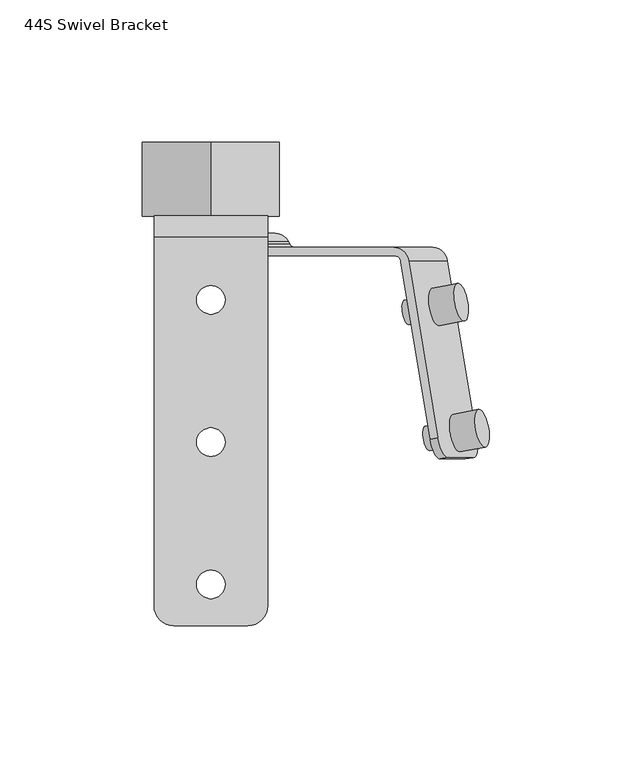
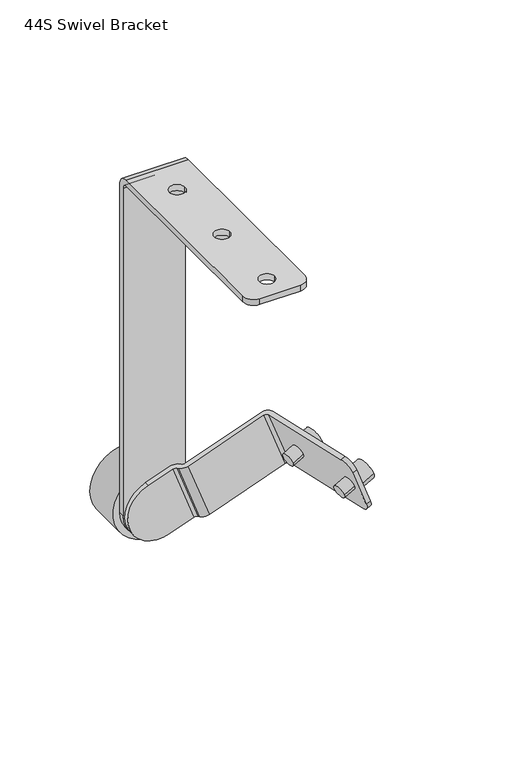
"""IFC4 building model written with IfcOpenShell, lengths in millimetres: proxy geometry, d&b xS-Series 44S Swivel Bracket : 44S Swivel Bracket."""

from ifc_helpers import new_model, si_unit, point, frame, frame_2d, origin, origin_2d, place, context, project, spatial, polyline, circle_curve, trimmed, segment, composite_curve, outline, extrude, source, transform, mapped, element, save
from ifc_brep_helpers import plane_surface, cylinder_surface, revolved_surface, advanced_brep


def proxy_44s_swivel_bracket_d8dc4f12(model_context):
    return source(origin(), model_context, "Body", "SolidModel", [
        extrude(outline(composite_curve([segment(trimmed(circle_curve(frame_2d((0.0, 6.707269)), 6.7072689), [point((0.0, 13.4145379))], [point((0.0, 0.0))], False, "CARTESIAN"), True, "CONTINUOUS"), segment(trimmed(circle_curve(frame_2d((0.0, 6.707269)), 6.7072689), [point((0.0, 0.0))], [point((0.0, 13.4145379))], False, "CARTESIAN"), True, "CONTINUOUS")], self_intersect=False)), frame((80.1887594, 40.9628223, 28.9903002), z_axis=(0.9254165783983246, 0.17364817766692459, 0.33682408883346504), x_axis=(0.3420201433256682, 0.0, -0.9396926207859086)), (0.0, 0.0, 1.0), 9.6),
        advanced_brep(
        [(13.0021913, -64.5046425, 230.0), (20.0021913, -57.5046425, 230.0), (20.0021913, 72.0953575, 230.0), (-19.9978087, 72.0953575, 230.0), (-19.9978087, -57.53477, 230.0), (-13.0279363, -64.5046425, 230.0), (-5.0, 0.0, 230.0), (5.0, 0.0, 230.0), (-5.0, -50.0, 230.0), (5.0, -50.0, 230.0), (-5.0, 50.0, 230.0), (5.0, 50.0, 230.0), (13.0021913, -64.5046425, 226.0), (-13.0279363, -64.5046425, 226.0), (-19.9978087, -57.53477, 226.0), (-19.9978087, 72.0953575, 226.0), (20.0021913, 72.0953575, 226.0), (20.0021913, -57.5046425, 226.0), (-5.0, 0.0, 226.0), (5.0, 0.0, 226.0), (-5.0, -50.0, 226.0), (5.0, -50.0, 226.0), (-5.0, 50.0, 226.0), (5.0, 50.0, 226.0), (-19.9978087, 79.4953575, 222.6), (-19.9978087, 79.4953575, 0.0), (-19.9978087, 75.4953575, 0.0), (-19.9978087, 75.4953575, 222.6), (20.0021913, 75.4953575, 222.6), (20.0021913, 75.4953575, 0.0), (20.0021913, 79.4953575, 0.0), (20.0021913, 79.4953575, 222.6)],
        [
            (0, 1, circle_curve(frame((13.0021913, -57.5046425, 230.0), z_axis=(0.0, 0.0, 1.0), x_axis=(1.0, 0.0, 0.0)), 7.0)),
            (1, 2),
            (2, 3),
            (3, 4),
            (4, 5, circle_curve(frame((-13.0279363, -57.53477, 230.0), z_axis=(0.0, 0.0, 1.0), x_axis=(1.0, 0.0, 0.0)), 6.9698724)),
            (5, 0),
            (6, 7, circle_curve(frame((0.0, 0.0, 230.0), z_axis=(0.0, 0.0, -1.0), x_axis=(1.0, 0.0, 0.0)), 5.0)),
            (7, 6, circle_curve(frame((0.0, 0.0, 230.0), z_axis=(0.0, 0.0, -1.0), x_axis=(1.0, 0.0, 0.0)), 5.0)),
            (8, 9, circle_curve(frame((0.0, -50.0, 230.0), z_axis=(0.0, 0.0, -1.0), x_axis=(1.0, 0.0, 0.0)), 5.0)),
            (9, 8, circle_curve(frame((0.0, -50.0, 230.0), z_axis=(0.0, 0.0, -1.0), x_axis=(1.0, 0.0, 0.0)), 5.0)),
            (10, 11, circle_curve(frame((0.0, 50.0, 230.0), z_axis=(0.0, 0.0, -1.0), x_axis=(1.0, 0.0, 0.0)), 5.0)),
            (11, 10, circle_curve(frame((0.0, 50.0, 230.0), z_axis=(0.0, 0.0, -1.0), x_axis=(1.0, 0.0, 0.0)), 5.0)),
            (12, 13),
            (13, 14, circle_curve(frame((-13.0279363, -57.53477, 226.0), z_axis=(0.0, 0.0, -1.0), x_axis=(1.0, 0.0, 0.0)), 6.9698724)),
            (14, 15),
            (15, 16),
            (16, 17),
            (17, 12, circle_curve(frame((13.0021913, -57.5046425, 226.0), z_axis=(0.0, 0.0, -1.0), x_axis=(1.0, 0.0, 0.0)), 7.0)),
            (18, 19, circle_curve(frame((0.0, 0.0, 226.0), z_axis=(0.0, 0.0, 1.0), x_axis=(1.0, 0.0, 0.0)), 5.0)),
            (19, 18, circle_curve(frame((0.0, 0.0, 226.0), z_axis=(0.0, 0.0, 1.0), x_axis=(1.0, 0.0, 0.0)), 5.0)),
            (20, 21, circle_curve(frame((0.0, -50.0, 226.0), z_axis=(0.0, 0.0, 1.0), x_axis=(1.0, 0.0, 0.0)), 5.0)),
            (21, 20, circle_curve(frame((0.0, -50.0, 226.0), z_axis=(0.0, 0.0, 1.0), x_axis=(1.0, 0.0, 0.0)), 5.0)),
            (22, 23, circle_curve(frame((0.0, 50.0, 226.0), z_axis=(0.0, 0.0, 1.0), x_axis=(1.0, 0.0, 0.0)), 5.0)),
            (23, 22, circle_curve(frame((0.0, 50.0, 226.0), z_axis=(0.0, 0.0, 1.0), x_axis=(1.0, 0.0, 0.0)), 5.0)),
            (5, 13),
            (12, 0),
            (4, 14),
            (3, 24, circle_curve(frame((-19.9978087, 72.0953575, 222.6), z_axis=(-1.0, 0.0, 0.0), x_axis=(0.0, -1.0, 0.0)), 7.4)),
            (24, 25),
            (25, 26),
            (26, 27),
            (27, 15, circle_curve(frame((-19.9978087, 72.0953575, 222.6), z_axis=(1.0, 0.0, 0.0), x_axis=(0.0, -1.0, 0.0)), 3.4)),
            (1, 17),
            (16, 28, circle_curve(frame((20.0021913, 72.0953575, 222.6), z_axis=(-1.0, 0.0, 0.0), x_axis=(0.0, -1.0, 0.0)), 3.4)),
            (28, 29),
            (29, 30),
            (30, 31),
            (31, 2, circle_curve(frame((20.0021913, 72.0953575, 222.6), z_axis=(1.0, 0.0, 0.0), x_axis=(0.0, -1.0, 0.0)), 7.4)),
            (7, 19),
            (18, 6),
            (9, 21),
            (20, 8),
            (11, 23),
            (22, 10),
            (30, 25, circle_curve(frame((0.0021913, 79.4953575, 0.0), z_axis=(0.0, 1.0, 0.0), x_axis=(1.0, 0.0, 0.0)), 20.0)),
            (24, 31),
            (27, 28),
            (26, 29, circle_curve(frame((0.0021913, 75.4953575, 0.0), z_axis=(0.0, -1.0, 0.0), x_axis=(1.0, 0.0, 0.0)), 20.0)),
        ],
        [
            plane_surface(frame((-19.9978087, -64.5046425, 230.0), z_axis=(0.0, 0.0, 1.0), x_axis=(-1.0, 0.0, 0.0))),
            plane_surface(frame((-19.9978087, -64.5046425, 226.0), z_axis=(0.0, 0.0, -1.0), x_axis=(1.0, 0.0, 0.0))),
            plane_surface(frame((13.0021913, -64.5046425, 230.0), z_axis=(0.0, -1.0, 0.0), x_axis=(0.0, 0.0, -1.0))),
            cylinder_surface(frame((-13.0279363, -57.53477, 226.0), z_axis=(0.0, 0.0, 1.0), x_axis=(1.0, 0.0, 0.0)), 6.9698724),
            plane_surface(frame((-19.9978087, -57.53477, 230.0), z_axis=(-1.0, 0.0, 0.0), x_axis=(0.0, 0.0, -1.0))),
            plane_surface(frame((20.0021913, 72.0953575, 230.0), z_axis=(1.0, 0.0, 0.0), x_axis=(0.0, 0.0, -1.0))),
            cylinder_surface(frame((13.0021913, -57.5046425, 226.0), z_axis=(0.0, 0.0, 1.0), x_axis=(1.0, 0.0, 0.0)), 7.0),
            revolved_surface(polyline([(5.0, 0.0, 226.0), (5.0, 0.0, 230.0)]), (0.0, 0.0, 460.0), (0.0, 0.0, -1.0)),
            revolved_surface(polyline([(5.0, -50.0, 226.0), (5.0, -50.0, 230.0)]), (0.0, -50.0, 460.0), (0.0, 0.0, -1.0)),
            revolved_surface(polyline([(5.0, 50.0, 226.0), (5.0, 50.0, 230.0)]), (0.0, 50.0, 460.0), (0.0, 0.0, -1.0)),
            plane_surface(frame((20.0021913, 79.4953575, 222.6), z_axis=(0.0, 1.0, 0.0), x_axis=(-1.0, 0.0, 0.0))),
            cylinder_surface(frame((-19.9978087, 72.0953575, 222.6), z_axis=(1.0, 0.0, 0.0), x_axis=(0.0, -1.0, 0.0)), 7.4),
            revolved_surface(polyline([(-19.9978087, 68.6953575, 222.6), (20.0021913, 68.6953575, 222.6)]), (-19.9978087, 72.0953575, 222.6), (-1.0, 0.0, 0.0)),
            plane_surface(frame((20.0021913, 75.4953575, 0.0), z_axis=(0.0, -1.0, 0.0), x_axis=(-1.0, 0.0, 0.0))),
            cylinder_surface(frame((0.0021913, 75.4953575, 0.0), z_axis=(0.0, 1.0, 0.0), x_axis=(1.0, 0.0, 0.0)), 20.0),
        ],
        [
            (0, [[1, 2, 3, 4, 5, 6], [7, 8], [9, 10], [11, 12]]),
            (1, [[13, 14, 15, 16, 17, 18], [19, 20], [21, 22], [23, 24]]),
            (2, [[25, -13, 26, -6]]),
            (3, [[27, -14, -25, -5]]),
            (4, [[28, 29, 30, 31, 32, -15, -27, -4]]),
            (5, [[33, -17, 34, 35, 36, 37, 38, -2]]),
            (6, [[-26, -18, -33, -1]]),
            (7, [[39, -19, 40, -8]]),
            (7, [[-40, -20, -39, -7]]),
            (8, [[41, -21, 42, -10]]),
            (8, [[-42, -22, -41, -9]]),
            (9, [[43, -23, 44, -12]]),
            (9, [[-44, -24, -43, -11]]),
            (10, [[45, -29, 46, -37]]),
            (11, [[-46, -28, -3, -38]]),
            (12, [[-16, -32, 47, -34]]),
            (13, [[-47, -31, 48, -35]]),
            (14, [[-36, -48, -30, -45]]),
        ],
    ),
        extrude(outline(composite_curve([segment(trimmed(circle_curve(origin_2d(), 9.4940159), [point((-9.4940159, 0.0))], [point((9.4940159, 0.0))], False, "CARTESIAN"), True, "CONTINUOUS"), segment(trimmed(circle_curve(origin_2d(), 9.4940159), [point((9.4940159, 0.0))], [point((-9.4940159, 0.0))], False, "CARTESIAN"), True, "CONTINUOUS")], self_intersect=False), holes=[composite_curve([segment(trimmed(circle_curve(origin_2d(), 6.0264841), [point((-6.0264841, 0.0))], [point((6.0264841, 0.0))], True, "CARTESIAN"), True, "CONTINUOUS"), segment(trimmed(circle_curve(origin_2d(), 6.0264841), [point((6.0264841, 0.0))], [point((-6.0264841, 0.0))], True, "CARTESIAN"), True, "CONTINUOUS")], self_intersect=False)]), frame((0.0, 0.0, 218.4), z_axis=(0.0, 0.0, 1.0), x_axis=(1.0, 0.0, 0.0)), (0.0, 0.0, 1.0), 7.6),
        extrude(outline(composite_curve([segment(trimmed(circle_curve(frame_2d((0.0, 6.7072689)), 6.7072689), [point((-1e-07, 13.4145378))], [point((0.0, 0.0))], False, "CARTESIAN"), True, "CONTINUOUS"), segment(trimmed(circle_curve(frame_2d((0.0, 6.7072689)), 6.7072689), [point((0.0, 0.0))], [point((-1e-07, 13.4145378))], False, "CARTESIAN"), True, "CONTINUOUS")], self_intersect=False)), frame((87.5316754, -3.3535265, 31.662903), z_axis=(0.9254165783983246, 0.17364817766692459, 0.33682408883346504), x_axis=(0.3420201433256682, 0.0, -0.9396926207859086)), (0.0, 0.0, 1.0), 9.6),
        advanced_brep(
        [(6.842462, 70.4953575, -18.7931029), (22.6658895, 70.4953575, -13.0338464), (8.9850837, 70.4953575, 24.5538585), (-6.8383437, 70.4953575, 18.7946019), (-6.8383437, 73.4953575, 18.7946019), (8.9301199, 73.4953575, 24.5338533), (22.6109256, 73.4953575, -13.0538516), (6.842462, 73.4953575, -18.7931029), (77.0431158, 1.0074858, 49.3249564), (79.8193656, 1.5284303, 50.3354286), (69.4901604, 63.8677873, 46.5759054), (64.3078275, 68.4953575, 44.6896905), (16.0407589, 68.4953575, 27.1219142), (14.0119763, 69.7366012, 26.3834978), (13.4777546, 70.7130373, 26.1890569), (11.0415217, 69.203566, 25.3023407), (11.548088, 68.2776777, 25.4867158), (16.0957227, 65.4953575, 27.1419194), (64.7365761, 65.4953575, 44.8457422), (66.7050032, 63.4006011, 45.5621911), (93.5001713, 1.5284303, 12.7477238), (90.7239216, 1.0074858, 11.7372515), (80.385809, 63.4006011, 7.9744863), (78.4173818, 65.4953575, 7.2580374), (29.7765285, 65.4953575, -10.4457854), (25.2288938, 68.2776777, -12.1009891), (24.7223275, 69.203566, -12.2853641), (27.1585603, 70.7130373, -11.3986479), (27.6927821, 69.7366012, -11.2042071), (29.7215646, 68.4953575, -10.4657906), (77.9886332, 68.4953575, 7.1019857), (83.1709661, 63.8677873, 8.9882006), (89.4720119, -5.8861685, 18.7308381), (80.5794882, -5.8861685, 43.1628462), (83.355738, -5.365224, 44.1733185), (92.2482617, -5.365224, 19.7413104)],
        [
            (0, 1),
            (1, 2),
            (2, 3),
            (3, 0, circle_curve(frame((0.0020592, 70.4953575, 0.0007495), z_axis=(0.0, -1.0, 0.0), x_axis=(0.9396926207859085, 0.0, 0.3420201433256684)), 20.0)),
            (4, 5),
            (5, 6),
            (6, 7),
            (7, 4, circle_curve(frame((0.0020592, 73.4953575, 0.0007495), z_axis=(0.0, 1.0, 0.0), x_axis=(0.9396926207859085, 0.0, 0.3420201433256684)), 20.0)),
            (3, 4),
            (7, 0),
            (8, 9),
            (9, 10),
            (10, 11, circle_curve(frame((64.3078275, 62.8953575, 44.6896905), z_axis=(-0.3420201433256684, 0.0, 0.9396926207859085), x_axis=(-0.9396926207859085, 0.0, -0.3420201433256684)), 5.6)),
            (11, 12),
            (12, 13, circle_curve(frame((16.0407589, 70.9936194, 27.1219142), z_axis=(0.3420201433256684, 0.0, -0.9396926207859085), x_axis=(-0.9396926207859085, 0.0, -0.3420201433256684)), 2.4982619)),
            (13, 14),
            (14, 5, circle_curve(frame((8.9301199, 67.8953575, 24.5338533), z_axis=(-0.3420201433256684, 0.0, 0.9396926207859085), x_axis=(-0.9396926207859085, 0.0, -0.3420201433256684)), 5.6)),
            (2, 15, circle_curve(frame((8.9290007, 67.8946641, 24.5334459), z_axis=(0.3420201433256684, 0.0, -0.9396926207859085), x_axis=(-0.9396926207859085, 0.0, -0.3420201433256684)), 2.6013781)),
            (15, 16),
            (16, 17, circle_curve(frame((16.0957227, 71.0953575, 27.1419194), z_axis=(-0.3420201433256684, 0.0, 0.9396926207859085), x_axis=(-0.9396926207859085, 0.0, -0.3420201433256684)), 5.6)),
            (17, 18),
            (18, 19, circle_curve(frame((64.7365761, 63.4006011, 44.8457422), z_axis=(0.3420201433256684, 0.0, -0.9396926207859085), x_axis=(-0.9396926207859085, 0.0, -0.3420201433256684)), 2.0947564)),
            (19, 8),
            (20, 21),
            (21, 22),
            (22, 23, circle_curve(frame((78.4173818, 63.4006011, 7.2580374), z_axis=(-0.3420201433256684, 0.0, 0.9396926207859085), x_axis=(-0.9396926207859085, 0.0, -0.3420201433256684)), 2.0947564)),
            (23, 24),
            (24, 25, circle_curve(frame((29.7765285, 71.0953575, -10.4457854), z_axis=(0.3420201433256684, 0.0, -0.9396926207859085), x_axis=(-0.9396926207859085, 0.0, -0.3420201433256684)), 5.6)),
            (25, 26),
            (26, 1, circle_curve(frame((22.6098065, 67.8946641, -13.0542589), z_axis=(-0.3420201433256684, 0.0, 0.9396926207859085), x_axis=(-0.9396926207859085, 0.0, -0.3420201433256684)), 2.6013781)),
            (6, 27, circle_curve(frame((22.6109256, 67.8953575, -13.0538516), z_axis=(0.3420201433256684, 0.0, -0.9396926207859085), x_axis=(-0.9396926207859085, 0.0, -0.3420201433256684)), 5.6)),
            (27, 28),
            (28, 29, circle_curve(frame((29.7215646, 70.9936194, -10.4657906), z_axis=(-0.3420201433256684, 0.0, 0.9396926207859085), x_axis=(-0.9396926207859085, 0.0, -0.3420201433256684)), 2.4982619)),
            (29, 30),
            (30, 31, circle_curve(frame((77.9886332, 62.8953575, 7.1019857), z_axis=(0.3420201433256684, 0.0, -0.9396926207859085), x_axis=(-0.9396926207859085, 0.0, -0.3420201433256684)), 5.6)),
            (31, 20),
            (19, 22),
            (21, 32, circle_curve(frame((88.3297806, 1.0074858, 18.3150999), z_axis=(-0.9254165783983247, -0.17364817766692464, -0.3368240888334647), x_axis=(0.16317591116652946, -0.9848077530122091, 0.059391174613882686)), 7.0)),
            (32, 33),
            (33, 8, circle_curve(frame((79.4372568, 1.0074858, 42.747108), z_axis=(-0.9254165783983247, -0.17364817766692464, -0.3368240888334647), x_axis=(0.16317591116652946, -0.9848077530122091, 0.059391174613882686)), 7.0)),
            (18, 23),
            (17, 24),
            (16, 25),
            (15, 26),
            (14, 27),
            (13, 28),
            (12, 29),
            (11, 30),
            (10, 31),
            (9, 34, circle_curve(frame((82.2135066, 1.5284303, 43.7575803), z_axis=(0.9254165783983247, 0.17364817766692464, 0.3368240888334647), x_axis=(0.16317591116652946, -0.9848077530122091, 0.059391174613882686)), 7.0)),
            (34, 35),
            (35, 20, circle_curve(frame((91.1060303, 1.5284303, 19.3255721), z_axis=(0.9254165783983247, 0.17364817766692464, 0.3368240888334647), x_axis=(0.16317591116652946, -0.9848077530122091, 0.059391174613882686)), 7.0)),
            (33, 34),
            (32, 35),
        ],
        [
            plane_surface(frame((18.7959116, 70.4953575, 6.8411523), z_axis=(0.0, -1.0, 0.0), x_axis=(0.3420201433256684, 0.0, -0.9396926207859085))),
            plane_surface(frame((18.7959116, 73.4953575, 6.8411523), z_axis=(0.0, 1.0, 0.0), x_axis=(-0.3420201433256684, 0.0, 0.9396926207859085))),
            cylinder_surface(frame((0.0020592, 73.4953575, 0.0007495), z_axis=(0.0, -1.0, 0.0), x_axis=(0.9396926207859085, 0.0, 0.3420201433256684)), 20.0),
            plane_surface(frame((66.7050032, 63.4006011, 45.5621911), z_axis=(-0.3420201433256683, 0.0, 0.9396926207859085), x_axis=(-0.16317591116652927, 0.9848077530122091, -0.0593911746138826))),
            plane_surface(frame((80.385809, 63.4006011, 7.9744863), z_axis=(0.3420201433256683, 0.0, -0.9396926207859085), x_axis=(0.16317591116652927, -0.9848077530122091, 0.0593911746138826))),
            plane_surface(frame((77.0431158, 1.0074858, 49.3249564), z_axis=(-0.9254165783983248, -0.1736481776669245, -0.33682408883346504), x_axis=(0.34202014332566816, 0.0, -0.9396926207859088))),
            revolved_surface(polyline([(76.44895467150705, 63.4006011, 6.54158850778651), (62.76814894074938, 63.4006011, 44.12929333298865)]), (78.4173818, 63.4006011, 7.2580374), (0.3420201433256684, 0.0, -0.9396926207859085)),
            plane_surface(frame((64.7365761, 65.4953575, 44.8457422), z_axis=(0.0, -1.0, 0.0), x_axis=(0.3420201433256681, 0.0, -0.9396926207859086))),
            cylinder_surface(frame((29.7765285, 71.0953575, -10.4457854), z_axis=(-0.3420201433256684, 0.0, 0.9396926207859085), x_axis=(-0.9396926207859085, 0.0, -0.3420201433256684)), 5.6),
            plane_surface(frame((11.548088, 68.2776777, 25.4867158), z_axis=(-0.8120776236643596, -0.5031571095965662, -0.29557208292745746), x_axis=(0.34202014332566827, 0.0, -0.9396926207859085))),
            revolved_surface(polyline([(20.16531070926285, 67.8946641, -13.943982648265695), (6.484504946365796, 67.8946641, 23.643722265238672)]), (22.6098065, 67.8946641, -13.0542589), (0.3420201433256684, 0.0, -0.9396926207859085)),
            cylinder_surface(frame((22.6109256, 67.8953575, -13.0538516), z_axis=(-0.3420201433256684, 0.0, 0.9396926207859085), x_axis=(-0.9396926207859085, 0.0, -0.3420201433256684)), 5.6),
            plane_surface(frame((13.4777546, 70.7130373, 26.1890569), z_axis=(0.8120776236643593, 0.5031571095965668, 0.29557208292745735), x_axis=(0.34202014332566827, 0.0, -0.9396926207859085))),
            revolved_surface(polyline([(27.37396634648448, 70.9936194, -11.320246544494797), (13.693160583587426, 70.9936194, 26.267458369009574)]), (29.7215646, 70.9936194, -10.4657906), (0.3420201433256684, 0.0, -0.9396926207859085)),
            plane_surface(frame((16.0407589, 68.4953575, 27.1219142), z_axis=(0.0, 1.0, 0.0), x_axis=(0.34202014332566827, 0.0, -0.9396926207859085))),
            cylinder_surface(frame((77.9886332, 62.8953575, 7.1019857), z_axis=(-0.3420201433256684, 0.0, 0.9396926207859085), x_axis=(-0.9396926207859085, 0.0, -0.3420201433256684)), 5.6),
            plane_surface(frame((69.4901604, 63.8677873, 46.5759054), z_axis=(0.9254165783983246, 0.17364817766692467, 0.33682408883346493), x_axis=(0.3420201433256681, 0.0, -0.9396926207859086))),
            cylinder_surface(frame((82.2135066, 1.5284303, 43.7575803), z_axis=(-0.9254165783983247, -0.17364817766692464, -0.3368240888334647), x_axis=(0.16317591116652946, -0.9848077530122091, 0.059391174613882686)), 7.0),
            plane_surface(frame((80.5794882, -5.8861685, 43.1628462), z_axis=(0.16317591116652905, -0.9848077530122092, 0.05939117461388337), x_axis=(0.9254165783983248, 0.17364817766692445, 0.3368240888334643))),
            cylinder_surface(frame((91.1060303, 1.5284303, 19.3255721), z_axis=(-0.9254165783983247, -0.17364817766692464, -0.3368240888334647), x_axis=(0.16317591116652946, -0.9848077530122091, 0.059391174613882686)), 7.0),
        ],
        [
            (0, [[1, 2, 3, 4]]),
            (1, [[5, 6, 7, 8]]),
            (2, [[9, -8, 10, -4]]),
            (3, [[11, 12, 13, 14, 15, 16, 17, -5, -9, -3, 18, 19, 20, 21, 22, 23]]),
            (4, [[24, 25, 26, 27, 28, 29, 30, -1, -10, -7, 31, 32, 33, 34, 35, 36]]),
            (5, [[37, -25, 38, 39, 40, -23]]),
            (6, [[41, -26, -37, -22]]),
            (7, [[42, -27, -41, -21]]),
            (8, [[43, -28, -42, -20]]),
            (9, [[44, -29, -43, -19]]),
            (10, [[-2, -30, -44, -18]]),
            (11, [[45, -31, -6, -17]]),
            (12, [[46, -32, -45, -16]]),
            (13, [[47, -33, -46, -15]]),
            (14, [[48, -34, -47, -14]]),
            (15, [[49, -35, -48, -13]]),
            (16, [[50, 51, 52, -36, -49, -12]]),
            (17, [[53, -50, -11, -40]]),
            (18, [[54, -51, -53, -39]]),
            (19, [[-24, -52, -54, -38]]),
        ],
    ),
        extrude(outline(composite_curve([segment(trimmed(circle_curve(frame_2d((0.0, 4.375)), 4.375), [point((0.0, 8.75))], [point((0.0, 0.0))], False, "CARTESIAN"), True, "CONTINUOUS"), segment(trimmed(circle_curve(frame_2d((0.0, 4.375)), 4.375), [point((0.0, 0.0))], [point((0.0, 8.75))], False, "CARTESIAN"), True, "CONTINUOUS")], self_intersect=False)), frame((69.5360652, 41.3321641, 25.1130366), z_axis=(0.9254165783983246, 0.17364817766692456, 0.33682408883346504), x_axis=(0.3420201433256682, 0.0, -0.9396926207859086)), (0.0, 0.0, 1.0), 8.1),
        extrude(outline(composite_curve([segment(trimmed(circle_curve(frame_2d((0.0, 4.375)), 4.375), [point((0.0, 8.75))], [point((0.0, 0.0))], False, "CARTESIAN"), True, "CONTINUOUS"), segment(trimmed(circle_curve(frame_2d((0.0, 4.375)), 4.375), [point((0.0, 0.0))], [point((0.0, 8.75))], False, "CARTESIAN"), True, "CONTINUOUS")], self_intersect=False)), frame((69.5360652, 41.3321641, 25.1130366), z_axis=(0.9254165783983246, 0.17364817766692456, 0.33682408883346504), x_axis=(0.3420201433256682, 0.0, -0.9396926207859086)), (0.0, 0.0, 1.0), 8.1),
        extrude(outline(composite_curve([segment(trimmed(circle_curve(frame_2d((0.0, 4.375)), 4.375), [point((-1e-07, 8.75))], [point((0.0, 0.0))], False, "CARTESIAN"), True, "CONTINUOUS"), segment(trimmed(circle_curve(frame_2d((0.0, 4.375)), 4.375), [point((0.0, 0.0))], [point((-1e-07, 8.75))], False, "CARTESIAN"), True, "CONTINUOUS")], self_intersect=False)), frame((76.8789812, -2.9841848, 27.7856394), z_axis=(0.9254165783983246, 0.17364817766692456, 0.33682408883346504), x_axis=(0.3420201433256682, 0.0, -0.9396926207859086)), (0.0, 0.0, 1.0), 8.1),
        advanced_brep(
        [(0.0, 79.4953575, -24.1351733), (0.0, 79.4953575, 0.0), (0.0, 79.4953575, 24.1351733), (0.0, 105.4217862, -24.1351733), (0.0, 105.4217862, 24.1351733), (0.0, 105.4217862, 0.0)],
        [
            (0, 1),
            (1, 2),
            (2, 0, circle_curve(frame((0.0, 79.4953575, 0.0), z_axis=(0.0, -1.0, 0.0), x_axis=(0.0, 0.0, 1.0)), 24.1351733)),
            (0, 2, circle_curve(frame((0.0, 79.4953575, 0.0), z_axis=(0.0, -1.0, 0.0), x_axis=(0.0, 0.0, 1.0)), 24.1351733)),
            (3, 0),
            (2, 4),
            (4, 3, circle_curve(frame((0.0, 105.4217862, 0.0), z_axis=(0.0, -1.0, 0.0), x_axis=(0.0, 0.0, 1.0)), 24.1351733)),
            (3, 4, circle_curve(frame((0.0, 105.4217862, 0.0), z_axis=(0.0, -1.0, 0.0), x_axis=(0.0, 0.0, 1.0)), 24.1351733)),
            (5, 3),
            (4, 5),
        ],
        [
            plane_surface(frame((0.0, 79.4953575, 0.0), z_axis=(0.0, -1.0, 0.0), x_axis=(0.0, 0.0, 1.0))),
            cylinder_surface(frame((0.0, 115.4217862, 0.0), z_axis=(0.0, 1.0, 0.0), x_axis=(0.0, 0.0, 1.0)), 24.1351733),
            plane_surface(frame((0.0, 105.4217862, 0.0), z_axis=(0.0, 1.0, 0.0), x_axis=(0.0, 0.0, 1.0))),
        ],
        [
            (0, [[1, 2, 3]]),
            (0, [[-2, -1, 4]]),
            (1, [[5, -3, 6, 7]]),
            (1, [[-6, -4, -5, 8]]),
            (2, [[9, -7, 10]]),
            (2, [[-10, -8, -9]]),
        ],
    ),
    ])


if __name__ == "__main__":
    model = new_model("IFC4")
    model_context = context("Model", 3, world=origin())
    ifc_project = project(units=[si_unit("LENGTHUNIT", "METRE", prefix="MILLI")], contexts=[model_context])
    site = spatial("IfcSite", under=ifc_project)
    building = spatial("IfcBuilding", under=site)
    placement = place(None, origin())
    proxy_44s_swivel_bracket_shape = proxy_44s_swivel_bracket_d8dc4f12(model_context)
    element("IfcBuildingElementProxy", 1, Name="d&b xS-Series 44S Swivel Bracket : 44S Swivel Bracket", ObjectType="d&b xS-Series 44S Swivel Bracket : 44S Swivel Bracket", at=placement, inside=building, context=model_context, shape_type="MappedRepresentation", body=[
        mapped(proxy_44s_swivel_bracket_shape, transform((0.0, 0.0, 0.0), x_axis=(1.0, 0.0, 0.0), y_axis=(0.0, 1.0, 0.0), z_axis=(0.0, 0.0, 1.0))),
    ])
    save(model, "model.ifc")
